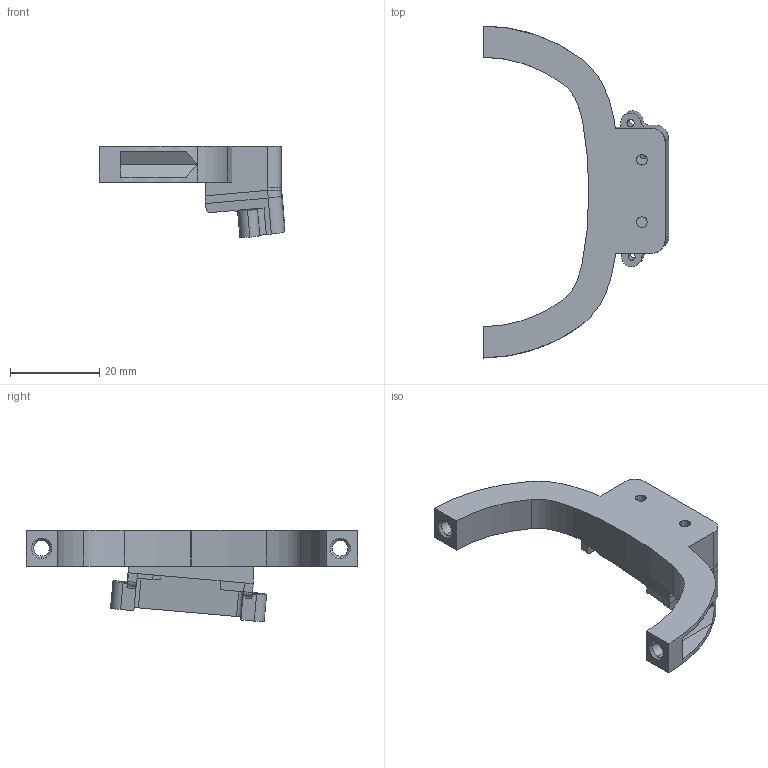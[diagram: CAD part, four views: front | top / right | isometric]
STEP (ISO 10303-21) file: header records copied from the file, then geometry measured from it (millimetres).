
FILE_DESCRIPTION (( 'STEP AP203' ), '1' );
FILE_NAME ('G1手腕相机支架-下装-左.STEP', '2025-08-21T06:34:09', ( '' ), ( '' ), 'SwSTEP 2.0', 'SolidWorks 2023', '' );
FILE_SCHEMA (( 'CONFIG_CONTROL_DESIGN' ));
Length unit declared in the file: millimetre
Products named in the file (1): G1手腕相机支架-下装-左
Bounding box: 41.53 x 74.49 x 20.42 mm (x, y, z)
Volume: 9084.8 mm3; surface area: 5595.5 mm2
Topology: 1 solids, 1 shells, 130 faces, 343 edges, 224 vertices
Faces by surface type: plane 63, cylinder 52, bspline 11, cone 4
Entity records: 4522 total; most frequent: CARTESIAN_POINT 1219, ORIENTED_EDGE 686, DIRECTION 658, EDGE_CURVE 343, AXIS2_PLACEMENT_3D 230, VERTEX_POINT 224, VECTOR 198, LINE 198
